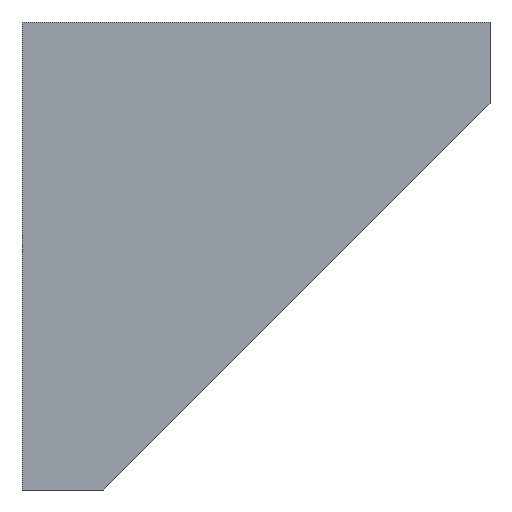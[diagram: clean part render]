
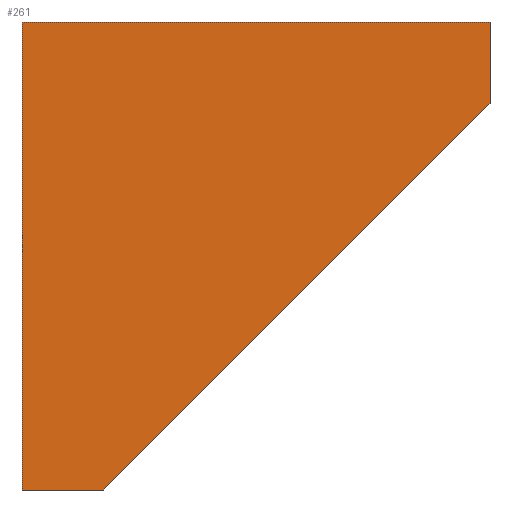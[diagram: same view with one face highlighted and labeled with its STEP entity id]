
A CAD part, left-side view. The second image highlights one B-rep face of the part: STEP entity #261.
In plain terms, the highlighted planar face has unit normal (-1, 0, 0).
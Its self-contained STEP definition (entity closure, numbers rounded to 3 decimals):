
#29=FACE_OUTER_BOUND('',#43,.T.);
#43=EDGE_LOOP('',(#177,#178,#179,#180,#181));
#61=LINE('',#395,#89);
#62=LINE('',#397,#90);
#63=LINE('',#399,#91);
#64=LINE('',#401,#92);
#65=LINE('',#402,#93);
#89=VECTOR('',#321,46.669);
#90=VECTOR('',#322,7.);
#91=VECTOR('',#323,40.);
#92=VECTOR('',#324,40.);
#93=VECTOR('',#325,7.);
#117=VERTEX_POINT('',#393);
#118=VERTEX_POINT('',#394);
#119=VERTEX_POINT('',#396);
#120=VERTEX_POINT('',#398);
#121=VERTEX_POINT('',#400);
#141=EDGE_CURVE('',#117,#118,#61,.T.);
#142=EDGE_CURVE('',#119,#118,#62,.T.);
#143=EDGE_CURVE('',#120,#119,#63,.T.);
#144=EDGE_CURVE('',#121,#120,#64,.T.);
#145=EDGE_CURVE('',#117,#121,#65,.T.);
#177=ORIENTED_EDGE('',*,*,#141,.T.);
#178=ORIENTED_EDGE('',*,*,#142,.F.);
#179=ORIENTED_EDGE('',*,*,#143,.F.);
#180=ORIENTED_EDGE('',*,*,#144,.F.);
#181=ORIENTED_EDGE('',*,*,#145,.F.);
#249=PLANE('',#295);
#261=ADVANCED_FACE('',(#29),#249,.F.);
#295=AXIS2_PLACEMENT_3D('',#392,#319,#320);
#319=DIRECTION('center_axis',(1.,0.,0.));
#320=DIRECTION('ref_axis',(0.,0.,-1.));
#321=DIRECTION('',(0.,-0.707,0.707));
#322=DIRECTION('',(0.,0.,-1.));
#323=DIRECTION('',(0.,-1.,0.));
#324=DIRECTION('',(0.,0.,1.));
#325=DIRECTION('',(0.,1.,0.));
#392=CARTESIAN_POINT('Origin',(0.,20.8,0.));
#393=CARTESIAN_POINT('',(0.,13.,-20.));
#394=CARTESIAN_POINT('',(0.,-20.,13.));
#395=CARTESIAN_POINT('',(0.,13.,-20.));
#396=CARTESIAN_POINT('',(0.,-20.,20.));
#397=CARTESIAN_POINT('',(0.,-20.,20.));
#398=CARTESIAN_POINT('',(0.,20.,20.));
#399=CARTESIAN_POINT('',(0.,20.,20.));
#400=CARTESIAN_POINT('',(0.,20.,-20.));
#401=CARTESIAN_POINT('',(0.,20.,-20.));
#402=CARTESIAN_POINT('',(0.,13.,-20.));
